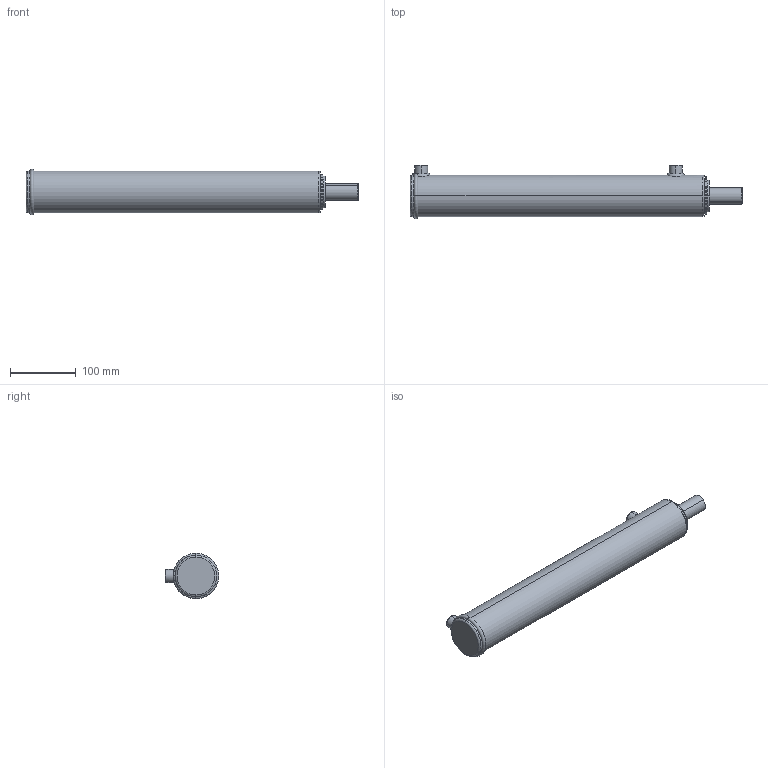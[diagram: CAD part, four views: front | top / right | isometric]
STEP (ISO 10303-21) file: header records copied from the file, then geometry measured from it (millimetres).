
FILE_DESCRIPTION (( 'STEP AP203' ), '1' );
FILE_NAME ('BL200100X355 (14).STEP', '2014-11-23T21:01:18', ( '' ), ( '' ), 'SwSTEP 2.0', 'SolidWorks 2014', '' );
FILE_SCHEMA (( 'CONFIG_CONTROL_DESIGN' ));
Length unit declared in the file: millimetre
Products named in the file (3): BL body 2_2x14; Spare_2x14; BL200100X355 (14)
Assembly tree (2 placements, depth 2):
  BL200100X355 (14)
    BL body 2_2x14
    Spare_2x14
Bounding box: 506 x 81.5 x 69.5 mm (x, y, z)
Volume: 1570950.7 mm3; surface area: 162361.8 mm2
Topology: 2 solids, 2 shells, 83 faces, 192 edges, 118 vertices
Faces by surface type: cylinder 31, plane 20, torus 17, cone 8, bspline 7
Entity records: 4855 total; most frequent: CARTESIAN_POINT 2688, DIRECTION 416, ORIENTED_EDGE 376, EDGE_CURVE 188, AXIS2_PLACEMENT_3D 179, VERTEX_POINT 118, CIRCLE 98, EDGE_LOOP 96
